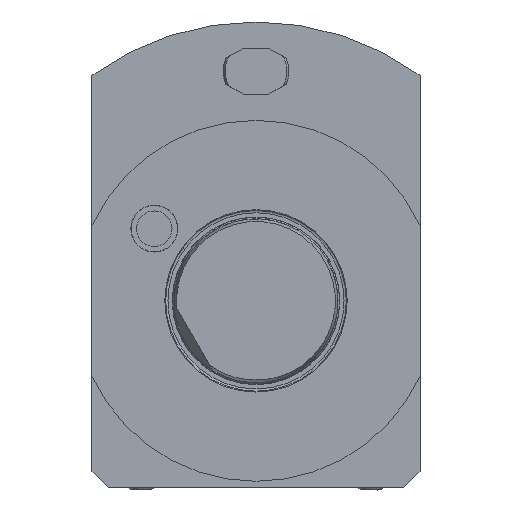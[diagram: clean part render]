
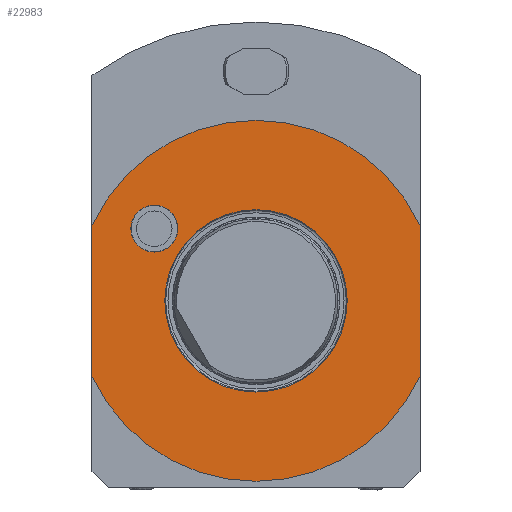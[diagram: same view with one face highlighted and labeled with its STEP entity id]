
A CAD part, left-side view. The second image highlights one B-rep face of the part: STEP entity #22983.
In plain terms, the highlighted planar face has unit normal (-1, 0, 0) as drawn and (0, 0, -1) by its records, which use the part's own axes.
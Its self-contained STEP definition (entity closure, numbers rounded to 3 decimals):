
#5517=VECTOR('',#16447,1.);
#5518=VECTOR('',#16450,1.);
#5906=LINE('',#18384,#5517);
#5907=LINE('',#18388,#5518);
#7403=ORIENTED_EDGE('',*,*,#9426,.F.);
#7404=ORIENTED_EDGE('',*,*,#9427,.T.);
#7405=ORIENTED_EDGE('',*,*,#9428,.F.);
#7406=ORIENTED_EDGE('',*,*,#9429,.T.);
#7407=ORIENTED_EDGE('',*,*,#9424,.F.);
#7408=ORIENTED_EDGE('',*,*,#9430,.F.);
#8142=CIRCLE('',#22489,27.8);
#8144=CIRCLE('',#22492,55.);
#8145=CIRCLE('',#22493,55.);
#8146=CIRCLE('',#22494,7.135);
#8632=VERTEX_POINT('',#18377);
#8634=VERTEX_POINT('',#18382);
#8635=VERTEX_POINT('',#18383);
#8636=VERTEX_POINT('',#18385);
#8637=VERTEX_POINT('',#18387);
#8638=VERTEX_POINT('',#18390);
#9424=EDGE_CURVE('',#8632,#8632,#8142,.T.);
#9426=EDGE_CURVE('',#8634,#8635,#5906,.T.);
#9427=EDGE_CURVE('',#8634,#8636,#8144,.T.);
#9428=EDGE_CURVE('',#8637,#8636,#5907,.T.);
#9429=EDGE_CURVE('',#8637,#8635,#8145,.T.);
#9430=EDGE_CURVE('',#8638,#8638,#8146,.T.);
#10027=EDGE_LOOP('',(#7403,#7404,#7405,#7406));
#10028=EDGE_LOOP('',(#7407));
#10029=EDGE_LOOP('',(#7408));
#10549=FACE_BOUND('',#10027,.T.);
#10550=FACE_BOUND('',#10028,.T.);
#10551=FACE_BOUND('',#10029,.T.);
#10880=PLANE('',#22491);
#16441=DIRECTION('',(0.,0.,-1.));
#16442=DIRECTION('',(13.9,24.076,0.));
#16445=DIRECTION('',(0.,0.,-1.));
#16446=DIRECTION('',(0.,1.,0.));
#16447=DIRECTION('',(45.826,0.,0.));
#16448=DIRECTION('',(0.,0.,-1.));
#16449=DIRECTION('',(0.,55.,0.));
#16450=DIRECTION('',(-45.826,0.,0.));
#16451=DIRECTION('',(0.,0.,-1.));
#16452=DIRECTION('',(0.,55.,0.));
#16453=DIRECTION('',(0.,0.,-1.));
#16454=DIRECTION('',(0.,7.135,0.));
#18377=CARTESIAN_POINT('',(13.9,24.076,75.));
#18378=CARTESIAN_POINT('',(0.,0.,75.));
#18381=CARTESIAN_POINT('',(-57.,50.,75.));
#18382=CARTESIAN_POINT('',(-22.913,-50.,75.));
#18383=CARTESIAN_POINT('',(22.913,-50.,75.));
#18384=CARTESIAN_POINT('',(-22.913,-50.,75.));
#18385=CARTESIAN_POINT('',(-22.913,50.,75.));
#18386=CARTESIAN_POINT('',(0.,0.,75.));
#18387=CARTESIAN_POINT('',(22.913,50.,75.));
#18388=CARTESIAN_POINT('',(22.913,50.,75.));
#18389=CARTESIAN_POINT('',(0.,0.,75.));
#18390=CARTESIAN_POINT('',(22.,-23.865,75.));
#18391=CARTESIAN_POINT('',(22.,-31.,75.));
#22489=AXIS2_PLACEMENT_3D('',#18378,#16441,#16442);
#22491=AXIS2_PLACEMENT_3D('',#18381,#16445,#16446);
#22492=AXIS2_PLACEMENT_3D('',#18386,#16448,#16449);
#22493=AXIS2_PLACEMENT_3D('',#18389,#16451,#16452);
#22494=AXIS2_PLACEMENT_3D('',#18391,#16453,#16454);
#22983=ADVANCED_FACE('',(#10549,#10550,#10551),#10880,.T.);
